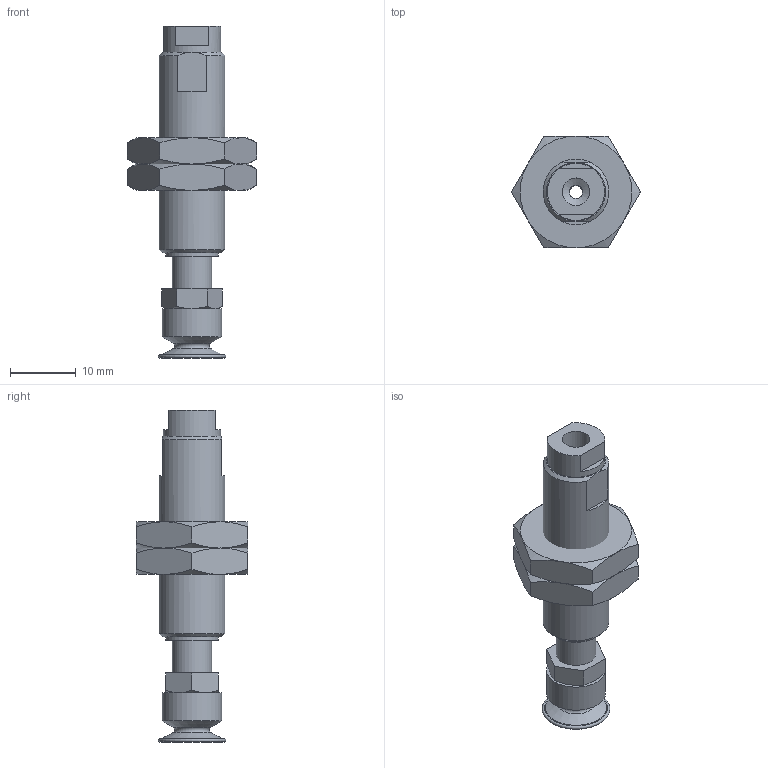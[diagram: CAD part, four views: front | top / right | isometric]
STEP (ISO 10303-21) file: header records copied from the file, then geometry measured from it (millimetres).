
FILE_DESCRIPTION(('STEP AP203'),'1');
FILE_NAME('-LB.stp','2025-03-28T07:27:13',(' '),(' '),'Spatial InterOp 3D',' ',' ');
FILE_SCHEMA(('CONFIG_CONTROL_DESIGN'));
Length unit declared in the file: millimetre
Products named in the file (8): BNAPFTH-10A-5-※-LB; __; BODY; NUT; TN-PS-10-M5; Setting screws-TN-PS-10-M5; BPAG-10B-※
Assembly tree (7 placements, depth 3):
  BNAPFTH-10A-5-※-LB
    __
    BODY
    NUT
    NUT
    TN-PS-10-M5
      Setting screws-TN-PS-10-M5
    BPAG-10B-※
Bounding box: 19.63 x 17 x 50.5 mm (x, y, z)
Volume: 4563.7 mm3; surface area: 4034.5 mm2
Topology: 6 solids, 6 shells, 160 faces, 365 edges, 225 vertices
Faces by surface type: plane 82, cone 41, cylinder 27, torus 10
Full cylindrical faces by diameter (mm): 2 x3, 3.9 x1, 4 x2, 4.2 x2, 5 x1, 6 x3, 7 x1, 8 x1, 8.7 x1, 9 x3, 10 x1
Entity records: 4732 total; most frequent: CARTESIAN_POINT 937, DIRECTION 722, ORIENTED_EDGE 638, EDGE_CURVE 319, AXIS2_PLACEMENT_3D 298, EDGE_LOOP 218, VERTEX_POINT 217, FACE_OUTER_BOUND 189
